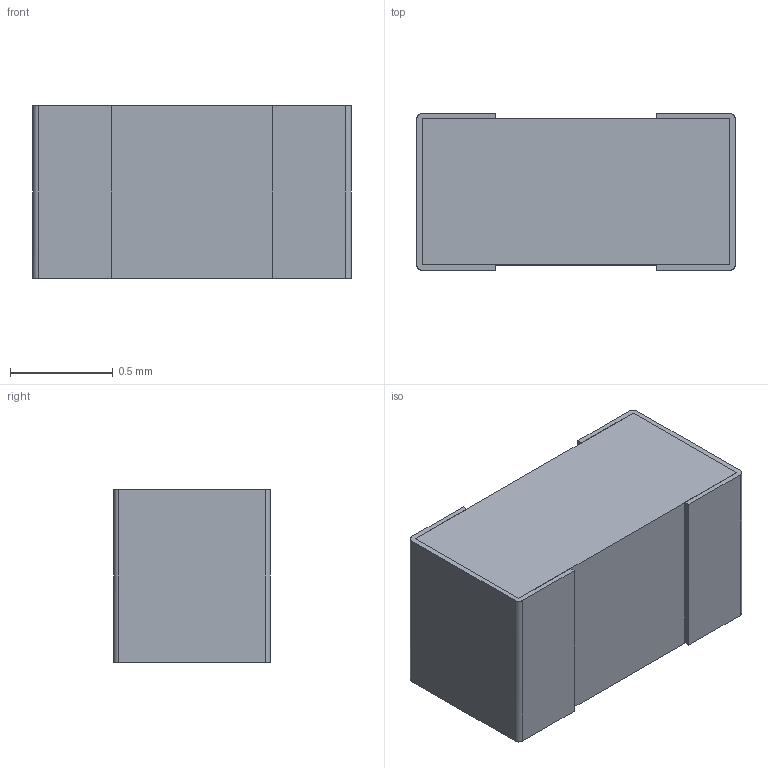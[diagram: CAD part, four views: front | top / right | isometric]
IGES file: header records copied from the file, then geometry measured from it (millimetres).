
Global section: file name: THJP0603A; native system: Autodesk Inventor LT ; preprocessor: unknown; author: Neil; date: 20191203.162046; units: inch
Bounding box: 1.55 x 0.76 x 0.84 mm (x, y, z)
Volume: 1 mm3; surface area: 11 mm2
Topology: 3 solids, 3 shells, 30 faces, 72 edges, 48 vertices
Faces by surface type: bspline 30
